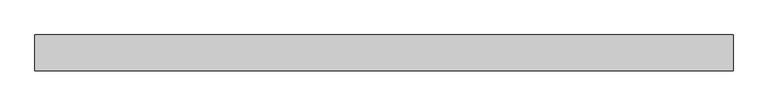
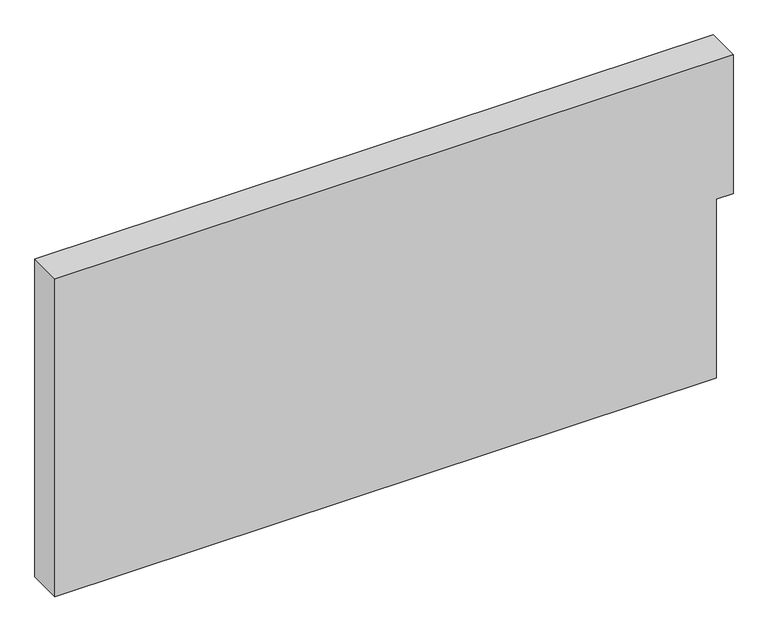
"""IFC4 building model written with IfcOpenShell, lengths in millimetres: plate geometry, Системная панель : Алюкобонд серый."""

from ifc_helpers import new_model, si_unit, frame, origin, place, context, project, spatial, polyline, outline, extrude, source, transform, mapped, element, save


def plate_868b502b(model_context):
    return source(origin(), model_context, "Body", "SweptSolid", [
        extrude(outline(polyline([(0.0, -585.0), (0.0, 555.640473), (326.594082, 555.640473), (326.594082, 585.0), (580.0, 585.0), (580.0, -585.0), (0.0, -585.0)])), frame((0.0, -49.5, 0.0), z_axis=(0.0, 1.0, 0.0), x_axis=(0.0, 0.0, 1.0)), (0.0, 0.0, 1.0), 60.0),
    ])


if __name__ == "__main__":
    model = new_model("IFC4")
    model_context = context("Model", 3, world=origin())
    ifc_project = project(units=[si_unit("LENGTHUNIT", "METRE", prefix="MILLI")], contexts=[model_context])
    site = spatial("IfcSite", under=ifc_project)
    building = spatial("IfcBuilding", under=site)
    placement = place(None, origin())
    plate_shape = plate_868b502b(model_context)
    element("IfcPlate", 1, ObjectType="Системная панель : Алюкобонд серый", at=placement, inside=building, context=model_context, shape_type="MappedRepresentation", body=[
        mapped(plate_shape, transform((0.0, 0.0, 0.0), x_axis=(1.0, 0.0, 0.0), y_axis=(0.0, 1.0, 0.0), z_axis=(0.0, 0.0, 1.0))),
    ])
    save(model, "model.ifc")
